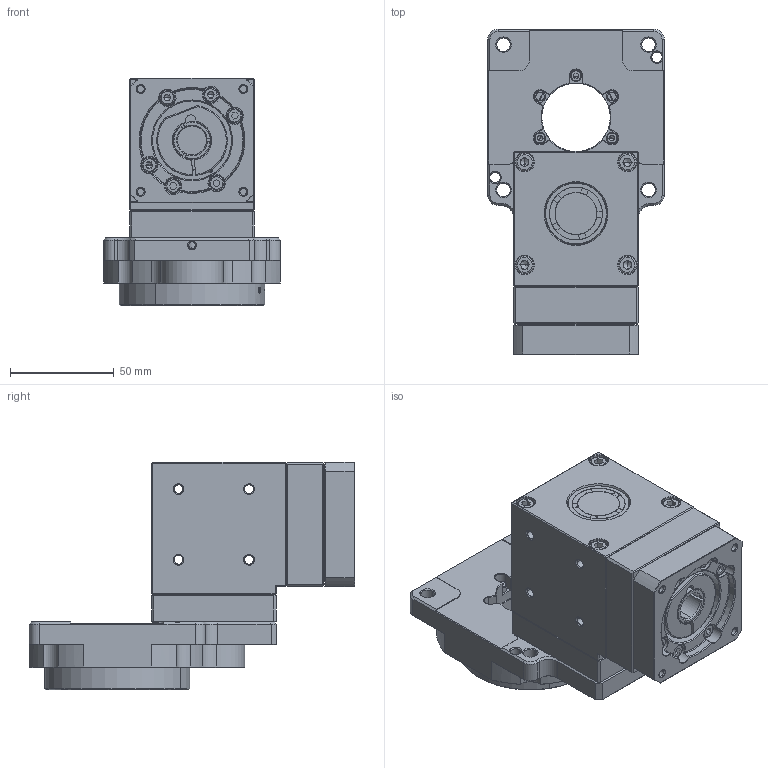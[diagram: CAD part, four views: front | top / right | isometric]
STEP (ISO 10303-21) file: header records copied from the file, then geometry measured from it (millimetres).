
FILE_DESCRIPTION (( 'STEP AP203' ), '1' );
FILE_NAME ('HRG85Z(85-05ÖÐ¿Õ).STEP', '2020-06-24T05:39:49', ( '' ), ( '' ), 'SwSTEP 2.0', 'SolidWorks 2012', '' );
FILE_SCHEMA (( 'CONFIG_CONTROL_DESIGN' ));
Length unit declared in the file: millimetre
Products named in the file (1): HRG85Z(85-05笢諾)
Bounding box: 85 x 157 x 109.7 mm (x, y, z)
Surface area: 87448.9 mm2 (no closed solid volume)
Topology: 0 solids, 42 shells, 810 faces, 2608 edges, 1770 vertices
Faces by surface type: plane 331, cone 216, cylinder 195, torus 49, bspline 19
Entity records: 32277 total; most frequent: CARTESIAN_POINT 9587, DIRECTION 4777, ORIENTED_EDGE 4271, EDGE_CURVE 2590, VERTEX_POINT 1770, AXIS2_PLACEMENT_3D 1719, VECTOR 1339, LINE 1339
